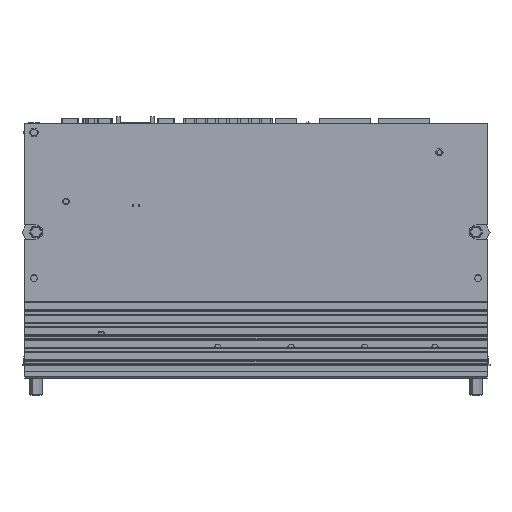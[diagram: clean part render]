
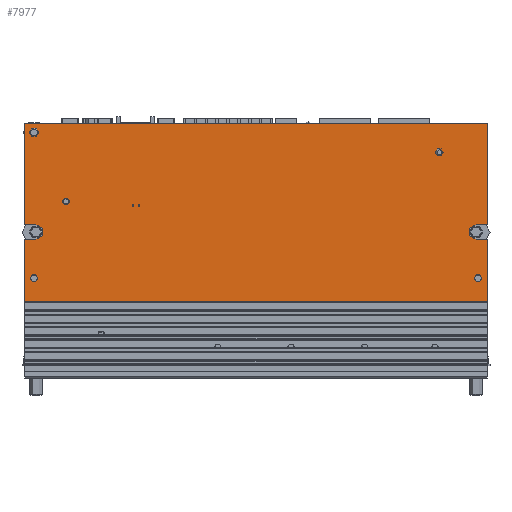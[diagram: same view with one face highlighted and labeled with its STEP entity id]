
A CAD part, front view. The second image highlights one B-rep face of the part: STEP entity #7977.
In plain terms, the highlighted planar face has unit normal (0, -1, 0).
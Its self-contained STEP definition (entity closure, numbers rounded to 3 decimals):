
#1592=CARTESIAN_POINT('',(133.3,7.3,21.6));
#1593=DIRECTION('',(0.,-1.,0.));
#1594=DIRECTION('',(1.,0.,0.));
#1595=AXIS2_PLACEMENT_3D('',#1592,#1593,#1594);
#1597=CARTESIAN_POINT('',(133.3,7.3,21.6));
#1598=DIRECTION('',(0.,-1.,0.));
#1599=DIRECTION('',(-1.,0.,0.));
#1600=AXIS2_PLACEMENT_3D('',#1597,#1598,#1599);
#1602=CARTESIAN_POINT('',(13.3,7.3,5.8));
#1603=DIRECTION('',(0.,-1.,0.));
#1604=DIRECTION('',(1.,0.,0.));
#1605=AXIS2_PLACEMENT_3D('',#1602,#1603,#1604);
#1607=CARTESIAN_POINT('',(13.3,7.3,5.8));
#1608=DIRECTION('',(0.,-1.,0.));
#1609=DIRECTION('',(-1.,0.,0.));
#1610=AXIS2_PLACEMENT_3D('',#1607,#1608,#1609);
#1612=CARTESIAN_POINT('',(3.,7.3,28.));
#1613=DIRECTION('',(0.,-1.,0.));
#1614=DIRECTION('',(1.,0.,0.));
#1615=AXIS2_PLACEMENT_3D('',#1612,#1613,#1614);
#1617=CARTESIAN_POINT('',(3.,7.3,28.));
#1618=DIRECTION('',(0.,-1.,0.));
#1619=DIRECTION('',(-1.,0.,0.));
#1620=AXIS2_PLACEMENT_3D('',#1617,#1618,#1619);
#1622=CARTESIAN_POINT('',(3.65,7.3,-4.05));
#1623=DIRECTION('',(0.,1.,0.));
#1624=DIRECTION('',(0.,0.,1.));
#1625=AXIS2_PLACEMENT_3D('',#1622,#1623,#1624);
#1627=DIRECTION('',(1.,0.,0.));
#1628=VECTOR('',#1627,3.65);
#1629=CARTESIAN_POINT('',(0.,7.3,-1.7));
#1630=LINE('',#1629,#1628);
#1631=DIRECTION('',(0.,0.,1.));
#1632=VECTOR('',#1631,32.7);
#1633=CARTESIAN_POINT('',(0.,7.3,-1.7));
#1634=LINE('',#1633,#1632);
#1635=DIRECTION('',(-1.,0.,0.));
#1636=VECTOR('',#1635,148.8);
#1637=CARTESIAN_POINT('',(148.8,7.3,31.));
#1638=LINE('',#1637,#1636);
#1639=DIRECTION('',(0.,0.,-1.));
#1640=VECTOR('',#1639,32.7);
#1641=CARTESIAN_POINT('',(148.8,7.3,31.));
#1642=LINE('',#1641,#1640);
#1643=DIRECTION('',(-1.,0.,0.));
#1644=VECTOR('',#1643,3.65);
#1645=CARTESIAN_POINT('',(148.8,7.3,-1.7));
#1646=LINE('',#1645,#1644);
#1647=CARTESIAN_POINT('',(145.15,7.3,-4.05));
#1648=DIRECTION('',(0.,1.,0.));
#1649=DIRECTION('',(0.,0.,-1.));
#1650=AXIS2_PLACEMENT_3D('',#1647,#1648,#1649);
#1652=DIRECTION('',(-1.,0.,0.));
#1653=VECTOR('',#1652,3.65);
#1654=CARTESIAN_POINT('',(148.8,7.3,-6.4));
#1655=LINE('',#1654,#1653);
#1656=DIRECTION('',(0.,0.,-1.));
#1657=VECTOR('',#1656,19.9);
#1658=CARTESIAN_POINT('',(148.8,7.3,-6.4));
#1659=LINE('',#1658,#1657);
#1660=DIRECTION('',(1.,0.,0.));
#1661=VECTOR('',#1660,148.8);
#1662=CARTESIAN_POINT('',(0.,7.3,-26.3));
#1663=LINE('',#1662,#1661);
#1664=DIRECTION('',(0.,0.,1.));
#1665=VECTOR('',#1664,19.9);
#1666=CARTESIAN_POINT('',(0.,7.3,-26.3));
#1667=LINE('',#1666,#1665);
#1668=DIRECTION('',(1.,0.,0.));
#1669=VECTOR('',#1668,3.65);
#1670=CARTESIAN_POINT('',(0.,7.3,-6.4));
#1671=LINE('',#1670,#1669);
#1672=CARTESIAN_POINT('',(3.,7.3,-18.9));
#1673=DIRECTION('',(0.,1.,0.));
#1674=DIRECTION('',(1.,0.,0.));
#1675=AXIS2_PLACEMENT_3D('',#1672,#1673,#1674);
#1677=CARTESIAN_POINT('',(3.,7.3,-18.9));
#1678=DIRECTION('',(0.,1.,0.));
#1679=DIRECTION('',(-1.,0.,0.));
#1680=AXIS2_PLACEMENT_3D('',#1677,#1678,#1679);
#1682=CARTESIAN_POINT('',(145.8,7.3,-18.9));
#1683=DIRECTION('',(0.,1.,0.));
#1684=DIRECTION('',(1.,0.,0.));
#1685=AXIS2_PLACEMENT_3D('',#1682,#1683,#1684);
#1687=CARTESIAN_POINT('',(145.8,7.3,-18.9));
#1688=DIRECTION('',(0.,1.,0.));
#1689=DIRECTION('',(-1.,0.,0.));
#1690=AXIS2_PLACEMENT_3D('',#1687,#1688,#1689);
#5636=CARTESIAN_POINT('',(0.,7.3,-26.3));
#5637=VERTEX_POINT('',#5636);
#5642=CARTESIAN_POINT('',(148.8,7.3,-26.3));
#5643=VERTEX_POINT('',#5642);
#6784=CARTESIAN_POINT('',(148.8,7.3,31.));
#6785=CARTESIAN_POINT('',(0.,7.3,31.));
#6786=VERTEX_POINT('',#6784);
#6787=VERTEX_POINT('',#6785);
#6852=CARTESIAN_POINT('',(3.65,7.3,-1.7));
#6853=CARTESIAN_POINT('',(3.65,7.3,-6.4));
#6854=VERTEX_POINT('',#6852);
#6855=VERTEX_POINT('',#6853);
#6856=CARTESIAN_POINT('',(0.,7.3,-6.4));
#6857=VERTEX_POINT('',#6856);
#6858=CARTESIAN_POINT('',(0.,7.3,-1.7));
#6859=VERTEX_POINT('',#6858);
#6860=CARTESIAN_POINT('',(148.8,7.3,-6.4));
#6861=CARTESIAN_POINT('',(145.15,7.3,-6.4));
#6862=VERTEX_POINT('',#6860);
#6863=VERTEX_POINT('',#6861);
#6864=CARTESIAN_POINT('',(145.15,7.3,-1.7));
#6865=VERTEX_POINT('',#6864);
#6866=CARTESIAN_POINT('',(148.8,7.3,-1.7));
#6867=VERTEX_POINT('',#6866);
#6868=CARTESIAN_POINT('',(4.5,7.3,28.));
#6869=CARTESIAN_POINT('',(1.5,7.3,28.));
#6870=VERTEX_POINT('',#6868);
#6871=VERTEX_POINT('',#6869);
#6950=CARTESIAN_POINT('',(4.25,7.3,-18.9));
#6951=CARTESIAN_POINT('',(1.75,7.3,-18.9));
#6952=VERTEX_POINT('',#6950);
#6953=VERTEX_POINT('',#6951);
#6958=CARTESIAN_POINT('',(147.05,7.3,-18.9));
#6959=CARTESIAN_POINT('',(144.55,7.3,-18.9));
#6960=VERTEX_POINT('',#6958);
#6961=VERTEX_POINT('',#6959);
#6966=CARTESIAN_POINT('',(134.55,7.3,21.6));
#6967=CARTESIAN_POINT('',(132.05,7.3,21.6));
#6968=VERTEX_POINT('',#6966);
#6969=VERTEX_POINT('',#6967);
#6974=CARTESIAN_POINT('',(14.55,7.3,5.8));
#6975=CARTESIAN_POINT('',(12.05,7.3,5.8));
#6976=VERTEX_POINT('',#6974);
#6977=VERTEX_POINT('',#6975);
#7920=CARTESIAN_POINT('',(148.8,7.3,-25.5));
#7921=DIRECTION('',(0.,-1.,0.));
#7922=DIRECTION('',(0.,0.,-1.));
#7923=AXIS2_PLACEMENT_3D('',#7920,#7921,#7922);
#7924=PLANE('',#7923);
#7926=ORIENTED_EDGE('',*,*,#7925,.F.);
#7928=ORIENTED_EDGE('',*,*,#7927,.F.);
#7929=ORIENTED_EDGE('',*,*,#7047,.T.);
#7931=ORIENTED_EDGE('',*,*,#7930,.F.);
#7933=ORIENTED_EDGE('',*,*,#7932,.T.);
#7935=ORIENTED_EDGE('',*,*,#7934,.T.);
#7937=ORIENTED_EDGE('',*,*,#7936,.F.);
#7939=ORIENTED_EDGE('',*,*,#7938,.F.);
#7941=ORIENTED_EDGE('',*,*,#7940,.T.);
#7943=ORIENTED_EDGE('',*,*,#7942,.F.);
#7944=ORIENTED_EDGE('',*,*,#7069,.T.);
#7946=ORIENTED_EDGE('',*,*,#7945,.T.);
#7947=EDGE_LOOP('',(#7926,#7928,#7929,#7931,#7933,#7935,#7937,#7939,#7941,#7943,
#7944,#7946));
#7948=FACE_OUTER_BOUND('',#7947,.F.);
#7950=ORIENTED_EDGE('',*,*,#7949,.T.);
#7952=ORIENTED_EDGE('',*,*,#7951,.T.);
#7953=EDGE_LOOP('',(#7950,#7952));
#7954=FACE_BOUND('',#7953,.F.);
#7955=ORIENTED_EDGE('',*,*,#7900,.T.);
#7956=ORIENTED_EDGE('',*,*,#7914,.T.);
#7957=EDGE_LOOP('',(#7955,#7956));
#7958=FACE_BOUND('',#7957,.F.);
#7960=ORIENTED_EDGE('',*,*,#7959,.T.);
#7962=ORIENTED_EDGE('',*,*,#7961,.T.);
#7963=EDGE_LOOP('',(#7960,#7962));
#7964=FACE_BOUND('',#7963,.F.);
#7966=ORIENTED_EDGE('',*,*,#7965,.F.);
#7968=ORIENTED_EDGE('',*,*,#7967,.F.);
#7969=EDGE_LOOP('',(#7966,#7968));
#7970=FACE_BOUND('',#7969,.F.);
#7972=ORIENTED_EDGE('',*,*,#7971,.F.);
#7974=ORIENTED_EDGE('',*,*,#7973,.F.);
#7975=EDGE_LOOP('',(#7972,#7974));
#7976=FACE_BOUND('',#7975,.F.);
#7977=ADVANCED_FACE('',(#7948,#7954,#7958,#7964,#7970,#7976),#7924,.T.);
#1596=CIRCLE('',#1595,1.25);
#1601=CIRCLE('',#1600,1.25);
#1606=CIRCLE('',#1605,1.25);
#1611=CIRCLE('',#1610,1.25);
#1616=CIRCLE('',#1615,1.5);
#1621=CIRCLE('',#1620,1.5);
#1626=CIRCLE('',#1625,2.35);
#1651=CIRCLE('',#1650,2.35);
#1676=CIRCLE('',#1675,1.25);
#1681=CIRCLE('',#1680,1.25);
#1686=CIRCLE('',#1685,1.25);
#1691=CIRCLE('',#1690,1.25);
#7047=EDGE_CURVE('',#6859,#6787,#1634,.T.);
#7069=EDGE_CURVE('',#5637,#6857,#1667,.T.);
#7900=EDGE_CURVE('',#6870,#6871,#1616,.T.);
#7914=EDGE_CURVE('',#6871,#6870,#1621,.T.);
#7925=EDGE_CURVE('',#6854,#6855,#1626,.T.);
#7927=EDGE_CURVE('',#6859,#6854,#1630,.T.);
#7930=EDGE_CURVE('',#6786,#6787,#1638,.T.);
#7932=EDGE_CURVE('',#6786,#6867,#1642,.T.);
#7934=EDGE_CURVE('',#6867,#6865,#1646,.T.);
#7936=EDGE_CURVE('',#6863,#6865,#1651,.T.);
#7938=EDGE_CURVE('',#6862,#6863,#1655,.T.);
#7940=EDGE_CURVE('',#6862,#5643,#1659,.T.);
#7942=EDGE_CURVE('',#5637,#5643,#1663,.T.);
#7945=EDGE_CURVE('',#6857,#6855,#1671,.T.);
#7949=EDGE_CURVE('',#6976,#6977,#1606,.T.);
#7951=EDGE_CURVE('',#6977,#6976,#1611,.T.);
#7959=EDGE_CURVE('',#6968,#6969,#1596,.T.);
#7961=EDGE_CURVE('',#6969,#6968,#1601,.T.);
#7965=EDGE_CURVE('',#6952,#6953,#1676,.T.);
#7967=EDGE_CURVE('',#6953,#6952,#1681,.T.);
#7971=EDGE_CURVE('',#6960,#6961,#1686,.T.);
#7973=EDGE_CURVE('',#6961,#6960,#1691,.T.);
